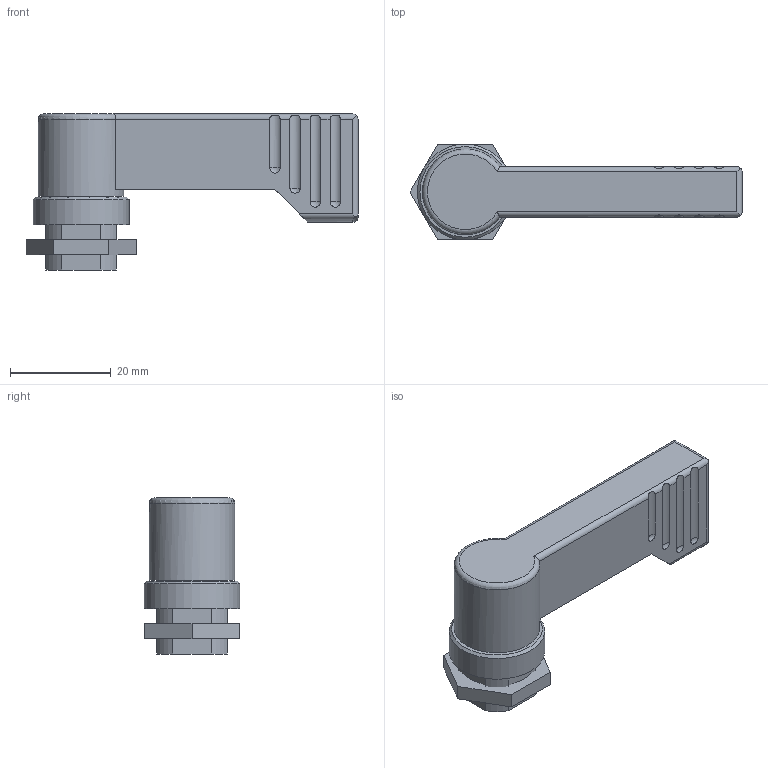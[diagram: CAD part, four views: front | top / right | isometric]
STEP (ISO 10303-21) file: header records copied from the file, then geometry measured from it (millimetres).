
FILE_DESCRIPTION(/* description */ ('STEP AP214'),/* implementation_level */ '2;1');
FILE_NAME(/* name */ 'Stop Lock GN 702-17-55-C-SW (0)',/* time_stamp */ '2024-10-01T09:59:51+02:00',/* author */ ('License CC BY-ND 4.0'),/* organization */ ('CADENAS'),/* preprocessor_version */ 'ST-DEVELOPER v19.3',/* originating_system */ 'PARTsolutions',/* authorisation */ ' ');
FILE_SCHEMA (('AUTOMOTIVE_DESIGN {1 0 10303 214 3 1 1}'));
Length unit declared in the file: millimetre
Products named in the file (4): Stop Lock GN 702-17-55-C-SW (0); Stop Lock GN 702-17-55-C-SW-2; Stop Lock GN 702-17-55-C-SW-1; Stop Lock GN 702-17-55-C-SW-3
Assembly tree (3 placements, depth 2):
  Stop Lock GN 702-17-55-C-SW (0)
    Stop Lock GN 702-17-55-C-SW-2
    Stop Lock GN 702-17-55-C-SW-1
    Stop Lock GN 702-17-55-C-SW-3
Bounding box: 65.97 x 19 x 31 mm (x, y, z)
Volume: 15073 mm3; surface area: 6130.5 mm2
Topology: 3 solids, 3 shells, 68 faces, 162 edges, 107 vertices
Faces by surface type: cylinder 29, plane 28, sphere 8, torus 2, cone 1
Full cylindrical faces by diameter (mm): 9 x2, 10 x4, 14.917 x1, 17 x1, 19 x1
Entity records: 2067 total; most frequent: CARTESIAN_POINT 397, DIRECTION 339, ORIENTED_EDGE 302, EDGE_CURVE 151, AXIS2_PLACEMENT_3D 130, VERTEX_POINT 106, EDGE_LOOP 87, FACE_BOUND 87
